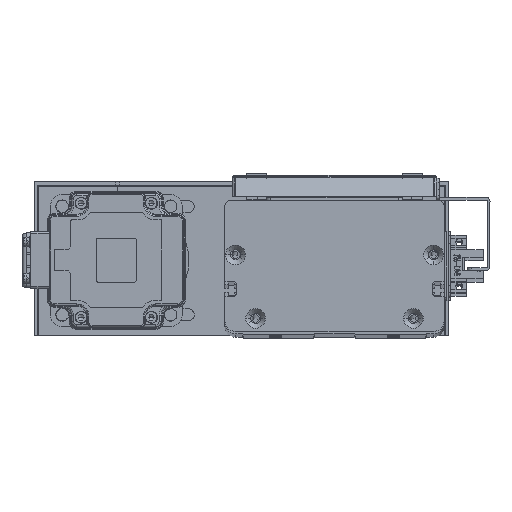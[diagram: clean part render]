
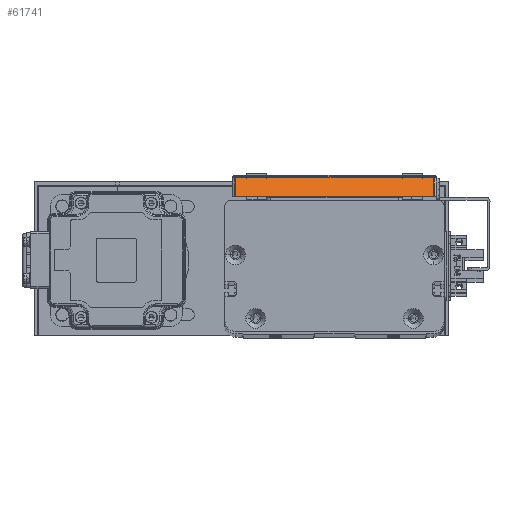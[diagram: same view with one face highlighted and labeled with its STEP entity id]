
A CAD part, top view. The second image highlights one B-rep face of the part: STEP entity #61741.
In plain terms, the highlighted planar face has unit normal (0, 0.707, 0.707) as drawn and (-0.707, 0, -0.707) by its records, which use the part's own axes.
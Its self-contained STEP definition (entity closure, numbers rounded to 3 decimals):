
#377 = DIRECTION ( 'NONE',  ( 0., 1., 0. ) ) ;
#528 = ORIENTED_EDGE ( 'NONE', *, *, #13250, .T. ) ;
#663 = VERTEX_POINT ( 'NONE', #33946 ) ;
#9496 = ORIENTED_EDGE ( 'NONE', *, *, #19958, .T. ) ;
#9666 = DIRECTION ( 'NONE',  ( 0.707, 0., -0.707 ) ) ;
#13250 = EDGE_CURVE ( 'NONE', #35275, #22726, #17780, .T. ) ;
#13954 = CARTESIAN_POINT ( 'NONE',  ( -68., 93.4, 5.6 ) ) ;
#17137 = EDGE_CURVE ( 'NONE', #38053, #663, #52424, .T. ) ;
#17780 = LINE ( 'NONE', #65098, #25365 ) ;
#18680 = ORIENTED_EDGE ( 'NONE', *, *, #17137, .T. ) ;
#19958 = EDGE_CURVE ( 'NONE', #663, #35275, #22748, .T. ) ;
#20493 = DIRECTION ( 'NONE',  ( 0., -1., 0. ) ) ;
#22726 = VERTEX_POINT ( 'NONE', #58823 ) ;
#22748 = LINE ( 'NONE', #37199, #27852 ) ;
#24852 = PLANE ( 'NONE',  #46529 ) ;
#25365 = VECTOR ( 'NONE', #377, 1000. ) ;
#26289 = DIRECTION ( 'NONE',  ( -0.707, 0., 0.707 ) ) ;
#27379 = FACE_OUTER_BOUND ( 'NONE', #44835, .T. ) ;
#27852 = VECTOR ( 'NONE', #26289, 1000. ) ;
#28362 = CARTESIAN_POINT ( 'NONE',  ( -66.5, 1.7, 4.1 ) ) ;
#29826 = DIRECTION ( 'NONE',  ( -0.707, 0., -0.707 ) ) ;
#31387 = CARTESIAN_POINT ( 'NONE',  ( -57.298, 93.4, -5.102 ) ) ;
#33946 = CARTESIAN_POINT ( 'NONE',  ( -57.298, 1.7, -5.102 ) ) ;
#34402 = ORIENTED_EDGE ( 'NONE', *, *, #68129, .T. ) ;
#35275 = VERTEX_POINT ( 'NONE', #28362 ) ;
#37199 = CARTESIAN_POINT ( 'NONE',  ( -68., 1.7, 5.6 ) ) ;
#38053 = VERTEX_POINT ( 'NONE', #63378 ) ;
#39035 = LINE ( 'NONE', #58267, #44964 ) ;
#44796 = VECTOR ( 'NONE', #20493, 1000. ) ;
#44835 = EDGE_LOOP ( 'NONE', ( #9496, #528, #34402, #18680 ) ) ;
#44964 = VECTOR ( 'NONE', #9666, 1000. ) ;
#46529 = AXIS2_PLACEMENT_3D ( 'NONE', #13954, #29826, #63067 ) ;
#52424 = LINE ( 'NONE', #31387, #44796 ) ;
#58267 = CARTESIAN_POINT ( 'NONE',  ( -68., 91.7, 5.6 ) ) ;
#58823 = CARTESIAN_POINT ( 'NONE',  ( -66.5, 91.7, 4.1 ) ) ;
#61741 = ADVANCED_FACE ( 'NONE', ( #27379 ), #24852, .T. ) ;
#63067 = DIRECTION ( 'NONE',  ( -0.707, 0., 0.707 ) ) ;
#63378 = CARTESIAN_POINT ( 'NONE',  ( -57.298, 91.7, -5.102 ) ) ;
#65098 = CARTESIAN_POINT ( 'NONE',  ( -66.5, 93.4, 4.1 ) ) ;
#68129 = EDGE_CURVE ( 'NONE', #22726, #38053, #39035, .T. ) ;
